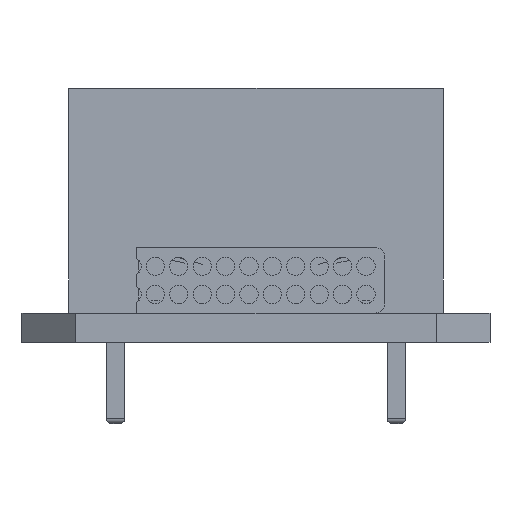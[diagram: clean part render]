
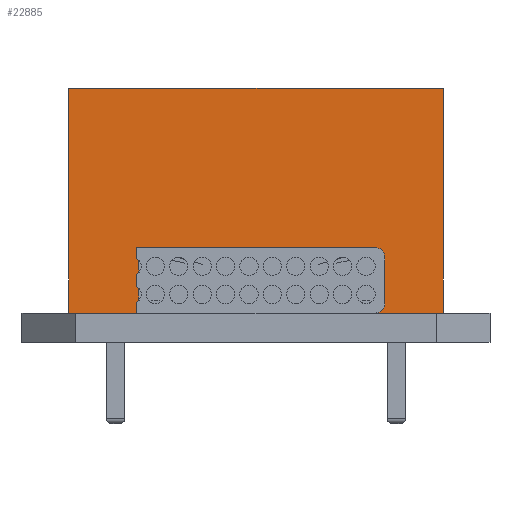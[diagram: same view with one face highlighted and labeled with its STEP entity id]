
A CAD part, front view. The second image highlights one B-rep face of the part: STEP entity #22885.
In plain terms, the highlighted planar face has unit normal (0, -1, 0) as drawn and (1, 0, 0) by its records, which use the part's own axes.
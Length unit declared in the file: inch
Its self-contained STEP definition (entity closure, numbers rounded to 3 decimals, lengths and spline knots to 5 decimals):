
#270 = LINE ( 'NONE', #14567, #3952 ) ;
#359 = VERTEX_POINT ( 'NONE', #8824 ) ;
#698 = DIRECTION ( 'NONE',  ( 1., 0., 0. ) ) ;
#2545 = DIRECTION ( 'NONE',  ( 0., -1., 0. ) ) ;
#3952 = VECTOR ( 'NONE', #2545, 39.37008 ) ;
#5627 = EDGE_CURVE ( 'NONE', #11130, #359, #18795, .T. ) ;
#6824 = EDGE_CURVE ( 'NONE', #359, #11100, #19514, .T. ) ;
#7183 = CARTESIAN_POINT ( 'NONE',  ( 0.4, 0.24016, -0.2 ) ) ;
#8047 = CARTESIAN_POINT ( 'NONE',  ( 0.4, 0., -0.2 ) ) ;
#8824 = CARTESIAN_POINT ( 'NONE',  ( 0.4, 0., -0.2 ) ) ;
#9176 = CARTESIAN_POINT ( 'NONE',  ( 0.4, 0.24016, -0.2 ) ) ;
#11100 = VERTEX_POINT ( 'NONE', #15770 ) ;
#11130 = VERTEX_POINT ( 'NONE', #9176 ) ;
#12452 = VECTOR ( 'NONE', #17078, 39.37008 ) ;
#12727 = EDGE_CURVE ( 'NONE', #11130, #26010, #12827, .T. ) ;
#12827 = LINE ( 'NONE', #26872, #16063 ) ;
#14567 = CARTESIAN_POINT ( 'NONE',  ( 0.4, 0.24016, 0.2 ) ) ;
#15770 = CARTESIAN_POINT ( 'NONE',  ( 0.4, 0., 0.2 ) ) ;
#16063 = VECTOR ( 'NONE', #17634, 39.37008 ) ;
#17078 = DIRECTION ( 'NONE',  ( 0., 0., 1. ) ) ;
#17634 = DIRECTION ( 'NONE',  ( 0., 0., 1. ) ) ;
#17678 = AXIS2_PLACEMENT_3D ( 'NONE', #29871, #698, #25769 ) ;
#17907 = FACE_OUTER_BOUND ( 'NONE', #21683, .T. ) ;
#18795 = LINE ( 'NONE', #7183, #20457 ) ;
#18872 = EDGE_CURVE ( 'NONE', #26010, #11100, #270, .T. ) ;
#19514 = LINE ( 'NONE', #8047, #12452 ) ;
#20457 = VECTOR ( 'NONE', #27883, 39.37008 ) ;
#21003 = ORIENTED_EDGE ( 'NONE', *, *, #6824, .F. ) ;
#21683 = EDGE_LOOP ( 'NONE', ( #21003, #26855, #25437, #23756 ) ) ;
#22885 = ADVANCED_FACE ( 'NONE', ( #17907 ), #29577, .T. ) ;
#23756 = ORIENTED_EDGE ( 'NONE', *, *, #18872, .T. ) ;
#25437 = ORIENTED_EDGE ( 'NONE', *, *, #12727, .T. ) ;
#25769 = DIRECTION ( 'NONE',  ( 0., 0., -1. ) ) ;
#26010 = VERTEX_POINT ( 'NONE', #29898 ) ;
#26855 = ORIENTED_EDGE ( 'NONE', *, *, #5627, .F. ) ;
#26872 = CARTESIAN_POINT ( 'NONE',  ( 0.4, 0.24016, -0.2 ) ) ;
#27883 = DIRECTION ( 'NONE',  ( 0., -1., 0. ) ) ;
#29577 = PLANE ( 'NONE',  #17678 ) ;
#29871 = CARTESIAN_POINT ( 'NONE',  ( 0.4, 0.24016, -0.2 ) ) ;
#29898 = CARTESIAN_POINT ( 'NONE',  ( 0.4, 0.24016, 0.2 ) ) ;
